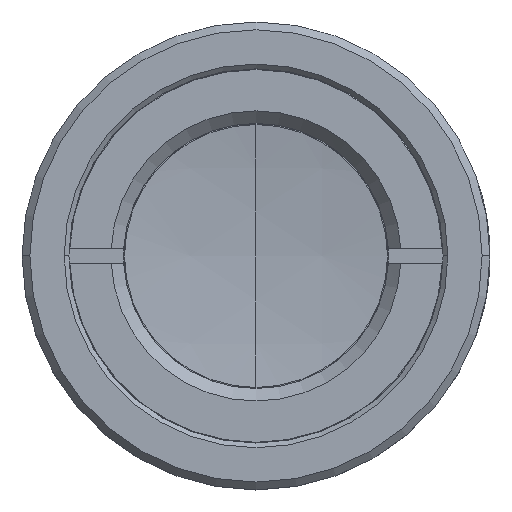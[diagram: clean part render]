
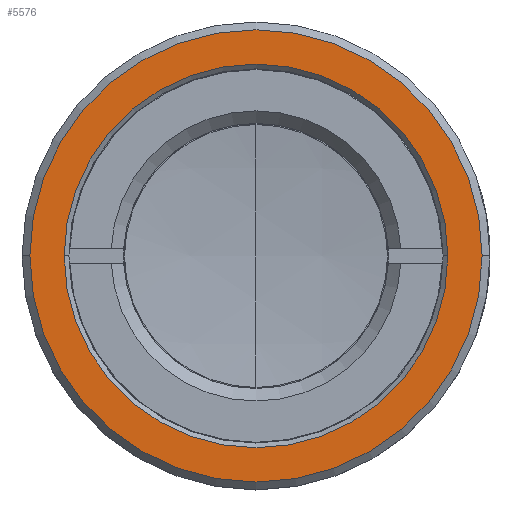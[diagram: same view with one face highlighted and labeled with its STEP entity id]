
A CAD part, top view. The second image highlights one B-rep face of the part: STEP entity #5576.
In plain terms, the highlighted planar face has unit normal (0, 0, 1).
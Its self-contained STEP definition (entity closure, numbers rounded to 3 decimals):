
#11 = CARTESIAN_POINT ( 'NONE',  ( -14.5, 0., 0. ) ) ;
#155 = EDGE_CURVE ( 'NONE', #4875, #1008, #544, .T. ) ;
#210 = AXIS2_PLACEMENT_3D ( 'NONE', #3225, #1039, #4734 ) ;
#211 = ORIENTED_EDGE ( 'NONE', *, *, #2008, .T. ) ;
#490 = DIRECTION ( 'NONE',  ( 0., 0., 1. ) ) ;
#502 = CARTESIAN_POINT ( 'NONE',  ( 0., 0., 0. ) ) ;
#544 = CIRCLE ( 'NONE', #210, 14.5 ) ;
#714 = FACE_OUTER_BOUND ( 'NONE', #5156, .T. ) ;
#804 = VERTEX_POINT ( 'NONE', #6371 ) ;
#907 = ORIENTED_EDGE ( 'NONE', *, *, #5271, .T. ) ;
#935 = CARTESIAN_POINT ( 'NONE',  ( 0., 0., 0. ) ) ;
#1008 = VERTEX_POINT ( 'NONE', #2747 ) ;
#1039 = DIRECTION ( 'NONE',  ( 0., 0., 1. ) ) ;
#1241 = FACE_BOUND ( 'NONE', #6571, .T. ) ;
#1277 = CARTESIAN_POINT ( 'NONE',  ( 0., 12., 0. ) ) ;
#1530 = CIRCLE ( 'NONE', #2940, 12.3 ) ;
#1678 = DIRECTION ( 'NONE',  ( -1., 0., 0. ) ) ;
#1772 = AXIS2_PLACEMENT_3D ( 'NONE', #502, #2057, #3147 ) ;
#2008 = EDGE_CURVE ( 'NONE', #804, #5529, #1530, .T. ) ;
#2057 = DIRECTION ( 'NONE',  ( 0., 0., -1. ) ) ;
#2108 = AXIS2_PLACEMENT_3D ( 'NONE', #935, #490, #5590 ) ;
#2747 = CARTESIAN_POINT ( 'NONE',  ( 14.5, 0., 0. ) ) ;
#2940 = AXIS2_PLACEMENT_3D ( 'NONE', #4821, #3182, #1678 ) ;
#3147 = DIRECTION ( 'NONE',  ( -1., 0., 0. ) ) ;
#3182 = DIRECTION ( 'NONE',  ( 0., 0., -1. ) ) ;
#3225 = CARTESIAN_POINT ( 'NONE',  ( 0., 0., 0. ) ) ;
#3577 = ORIENTED_EDGE ( 'NONE', *, *, #155, .T. ) ;
#4385 = CIRCLE ( 'NONE', #2108, 14.5 ) ;
#4610 = AXIS2_PLACEMENT_3D ( 'NONE', #1277, #5956, #5989 ) ;
#4734 = DIRECTION ( 'NONE',  ( -1., 0., 0. ) ) ;
#4821 = CARTESIAN_POINT ( 'NONE',  ( 0., 0., 0. ) ) ;
#4875 = VERTEX_POINT ( 'NONE', #11 ) ;
#5156 = EDGE_LOOP ( 'NONE', ( #3577, #6104 ) ) ;
#5271 = EDGE_CURVE ( 'NONE', #5529, #804, #5915, .T. ) ;
#5529 = VERTEX_POINT ( 'NONE', #5753 ) ;
#5576 = ADVANCED_FACE ( 'NONE', ( #714, #1241 ), #6510, .F. ) ;
#5590 = DIRECTION ( 'NONE',  ( -1., 0., 0. ) ) ;
#5753 = CARTESIAN_POINT ( 'NONE',  ( 12.3, 0., 0. ) ) ;
#5915 = CIRCLE ( 'NONE', #1772, 12.3 ) ;
#5956 = DIRECTION ( 'NONE',  ( 0., 0., -1. ) ) ;
#5989 = DIRECTION ( 'NONE',  ( -1., 0., 0. ) ) ;
#6104 = ORIENTED_EDGE ( 'NONE', *, *, #6569, .T. ) ;
#6371 = CARTESIAN_POINT ( 'NONE',  ( -12.3, 0., 0. ) ) ;
#6510 = PLANE ( 'NONE',  #4610 ) ;
#6569 = EDGE_CURVE ( 'NONE', #1008, #4875, #4385, .T. ) ;
#6571 = EDGE_LOOP ( 'NONE', ( #907, #211 ) ) ;
